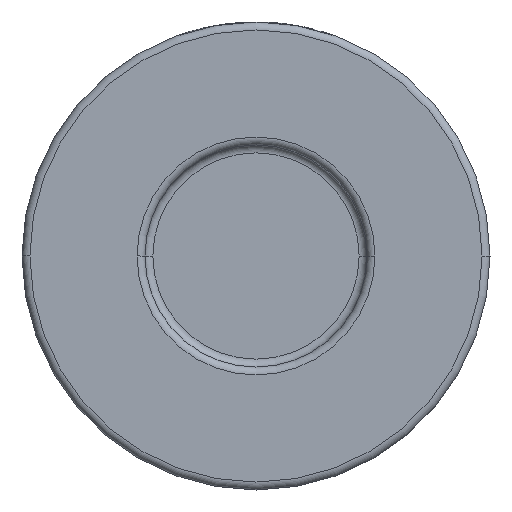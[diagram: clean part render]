
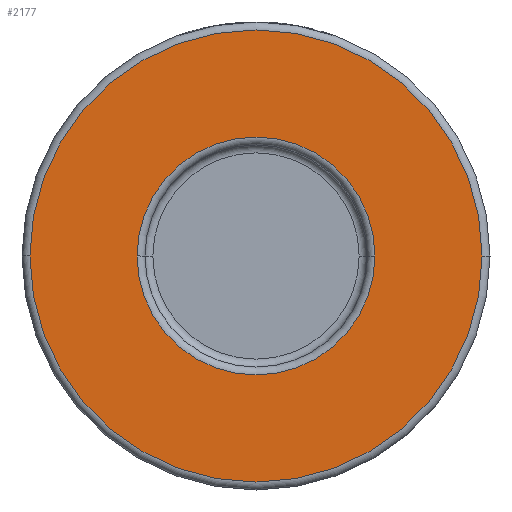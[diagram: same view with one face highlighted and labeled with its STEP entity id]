
A CAD part, front view. The second image highlights one B-rep face of the part: STEP entity #2177.
In plain terms, the highlighted planar face has unit normal (0, -1, 0).
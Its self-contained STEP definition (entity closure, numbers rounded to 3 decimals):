
#341 = EDGE_CURVE ( 'NONE', #903, #3570, #3011, .T. ) ;
#638 = EDGE_LOOP ( 'NONE', ( #2629, #4292 ) ) ;
#654 = FACE_BOUND ( 'NONE', #638, .T. ) ;
#766 = AXIS2_PLACEMENT_3D ( 'NONE', #1989, #984, #943 ) ;
#903 = VERTEX_POINT ( 'NONE', #2203 ) ;
#943 = DIRECTION ( 'NONE',  ( 1., 0., 0. ) ) ;
#984 = DIRECTION ( 'NONE',  ( 0., -1., 0. ) ) ;
#1384 = DIRECTION ( 'NONE',  ( 1., 0., 0. ) ) ;
#1395 = DIRECTION ( 'NONE',  ( 1., 0., 0. ) ) ;
#1415 = CARTESIAN_POINT ( 'NONE',  ( 15., -19., 0. ) ) ;
#1633 = CIRCLE ( 'NONE', #766, 28.5 ) ;
#1680 = EDGE_CURVE ( 'NONE', #3151, #3496, #1955, .T. ) ;
#1804 = DIRECTION ( 'NONE',  ( 0., 1., 0. ) ) ;
#1955 = CIRCLE ( 'NONE', #4251, 28.5 ) ;
#1989 = CARTESIAN_POINT ( 'NONE',  ( 0., -19., 0. ) ) ;
#2045 = DIRECTION ( 'NONE',  ( 0., -1., 0. ) ) ;
#2113 = DIRECTION ( 'NONE',  ( 0., 1., 0. ) ) ;
#2121 = DIRECTION ( 'NONE',  ( 1., 0., 0. ) ) ;
#2177 = ADVANCED_FACE ( 'NONE', ( #654, #4461 ), #2456, .T. ) ;
#2188 = DIRECTION ( 'NONE',  ( 0., -1., 0. ) ) ;
#2203 = CARTESIAN_POINT ( 'NONE',  ( -15., -19., 0. ) ) ;
#2446 = CIRCLE ( 'NONE', #2515, 15. ) ;
#2456 = PLANE ( 'NONE',  #4404 ) ;
#2464 = CARTESIAN_POINT ( 'NONE',  ( 0., -19., 0. ) ) ;
#2506 = CARTESIAN_POINT ( 'NONE',  ( 0., -19., 0. ) ) ;
#2515 = AXIS2_PLACEMENT_3D ( 'NONE', #2464, #1804, #1395 ) ;
#2629 = ORIENTED_EDGE ( 'NONE', *, *, #4389, .T. ) ;
#2881 = EDGE_LOOP ( 'NONE', ( #4453, #3509 ) ) ;
#3011 = CIRCLE ( 'NONE', #3079, 15. ) ;
#3079 = AXIS2_PLACEMENT_3D ( 'NONE', #3514, #2113, #3493 ) ;
#3080 = CARTESIAN_POINT ( 'NONE',  ( 29.5, -19., 0. ) ) ;
#3151 = VERTEX_POINT ( 'NONE', #4108 ) ;
#3488 = EDGE_CURVE ( 'NONE', #3496, #3151, #1633, .T. ) ;
#3493 = DIRECTION ( 'NONE',  ( 1., 0., 0. ) ) ;
#3496 = VERTEX_POINT ( 'NONE', #3753 ) ;
#3509 = ORIENTED_EDGE ( 'NONE', *, *, #3488, .T. ) ;
#3514 = CARTESIAN_POINT ( 'NONE',  ( 0., -19., 0. ) ) ;
#3570 = VERTEX_POINT ( 'NONE', #1415 ) ;
#3753 = CARTESIAN_POINT ( 'NONE',  ( -28.5, -19., 0. ) ) ;
#4108 = CARTESIAN_POINT ( 'NONE',  ( 28.5, -19., 0. ) ) ;
#4251 = AXIS2_PLACEMENT_3D ( 'NONE', #2506, #2188, #2121 ) ;
#4292 = ORIENTED_EDGE ( 'NONE', *, *, #341, .T. ) ;
#4389 = EDGE_CURVE ( 'NONE', #3570, #903, #2446, .T. ) ;
#4404 = AXIS2_PLACEMENT_3D ( 'NONE', #3080, #2045, #1384 ) ;
#4453 = ORIENTED_EDGE ( 'NONE', *, *, #1680, .T. ) ;
#4461 = FACE_OUTER_BOUND ( 'NONE', #2881, .T. ) ;
